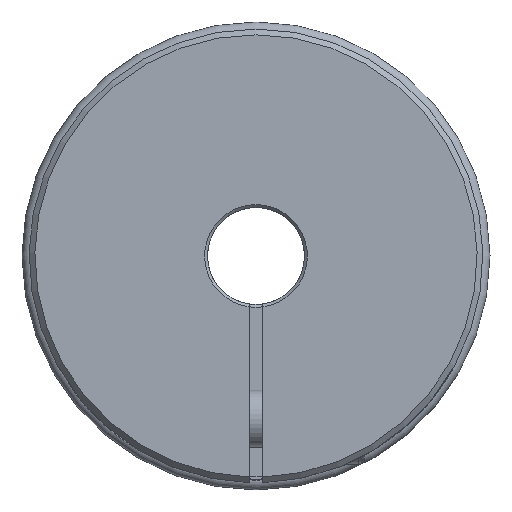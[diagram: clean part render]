
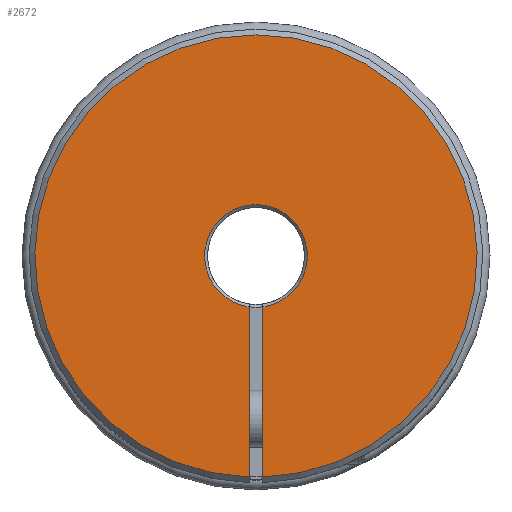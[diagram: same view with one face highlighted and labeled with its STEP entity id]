
A CAD part, left-side view. The second image highlights one B-rep face of the part: STEP entity #2672.
In plain terms, the highlighted planar face has unit normal (-1, 0, 0).
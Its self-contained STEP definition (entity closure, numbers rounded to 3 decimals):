
#67=PLANE('',#2830);
#143=CIRCLE('',#2809,38.75);
#148=CIRCLE('',#2816,9.);
#293=ORIENTED_EDGE('',*,*,#726,.F.);
#294=ORIENTED_EDGE('',*,*,#707,.T.);
#295=ORIENTED_EDGE('',*,*,#727,.F.);
#296=ORIENTED_EDGE('',*,*,#712,.F.);
#707=EDGE_CURVE('',#923,#925,#143,.T.);
#712=EDGE_CURVE('',#928,#930,#148,.T.);
#726=EDGE_CURVE('',#923,#928,#1088,.T.);
#727=EDGE_CURVE('',#930,#925,#1089,.T.);
#923=VERTEX_POINT('',#3683);
#925=VERTEX_POINT('',#3687);
#928=VERTEX_POINT('',#3697);
#930=VERTEX_POINT('',#3700);
#1088=LINE('',#3853,#1178);
#1089=LINE('',#3854,#1179);
#1178=VECTOR('',#3127,1000.);
#1179=VECTOR('',#3128,1000.);
#1275=EDGE_LOOP('',(#293,#294,#295,#296));
#1493=FACE_BOUND('',#1275,.T.);
#2672=ADVANCED_FACE('',(#1493),#67,.T.);
#2809=AXIS2_PLACEMENT_3D('',#3688,#3081,#3082);
#2816=AXIS2_PLACEMENT_3D('',#3699,#3095,#3096);
#2830=AXIS2_PLACEMENT_3D('',#3852,#3125,#3126);
#3081=DIRECTION('',(-1.,0.,0.));
#3082=DIRECTION('',(0.,0.,1.));
#3095=DIRECTION('',(-1.,0.,0.));
#3096=DIRECTION('',(0.,0.,1.));
#3125=DIRECTION('',(-1.,0.,0.));
#3126=DIRECTION('',(0.,0.,1.));
#3127=DIRECTION('',(0.,0.,1.));
#3128=DIRECTION('',(0.,0.,-1.));
#3683=CARTESIAN_POINT('',(-48.229,-1.2,-38.731));
#3687=CARTESIAN_POINT('',(-48.229,1.2,-38.731));
#3688=CARTESIAN_POINT('',(-48.229,0.,0.));
#3697=CARTESIAN_POINT('',(-48.229,-1.2,-8.92));
#3699=CARTESIAN_POINT('',(-48.229,0.,0.));
#3700=CARTESIAN_POINT('',(-48.229,1.2,-8.92));
#3852=CARTESIAN_POINT('',(-48.229,0.,8.5));
#3853=CARTESIAN_POINT('',(-48.229,-1.2,-6.));
#3854=CARTESIAN_POINT('',(-48.229,1.2,-6.));
